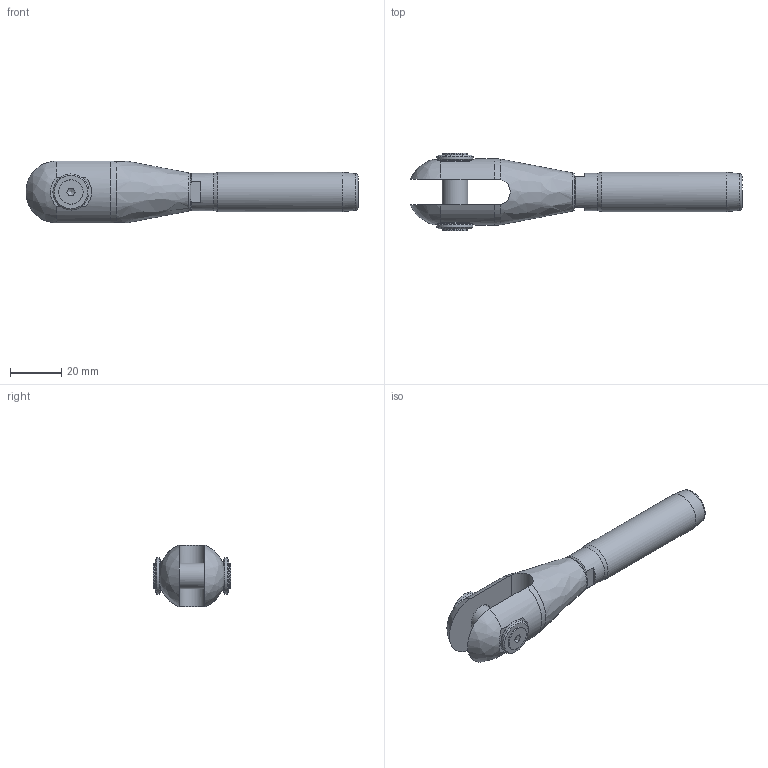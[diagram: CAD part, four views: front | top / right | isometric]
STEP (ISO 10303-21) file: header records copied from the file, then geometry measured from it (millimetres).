
FILE_DESCRIPTION(/* description */ (''),/* implementation_level */ '2;1');
FILE_NAME(/* name */ 'MAC-R 06_1,4418',/* time_stamp */ '2023-05-23T17:52:03+02:00',/* author */ (''),/* organization */ (''),/* preprocessor_version */ 'ST-DEVELOPER v16.5',/* originating_system */ 'Rhino 7.22',/* authorisation */ '');
FILE_SCHEMA (('CONFIG_CONTROL_DESIGN'));
Length unit declared in the file: millimetre
Products named in the file (1): Document
Bounding box: 128.98 x 29.96 x 24.08 mm (x, y, z)
Volume: 29906.1 mm3; surface area: 12887.5 mm2
Topology: 7 solids, 7 shells, 88 faces, 245 edges, 170 vertices
Faces by surface type: plane 36, bspline 28, cylinder 24
Full cylindrical faces by diameter (mm): 4.134 x2, 5 x2, 5.5 x2, 8.376 x1, 9.43 x2, 10 x2, 11 x2, 14 x2, 14.5 x1, 15.3 x1
Entity records: 3450 total; most frequent: CARTESIAN_POINT 1895, ORIENTED_EDGE 480, EDGE_CURVE 240, VERTEX_POINT 170, EDGE_LOOP 100, B_SPLINE_CURVE_WITH_KNOTS 93, ADVANCED_FACE 88, FACE_OUTER_BOUND 88
